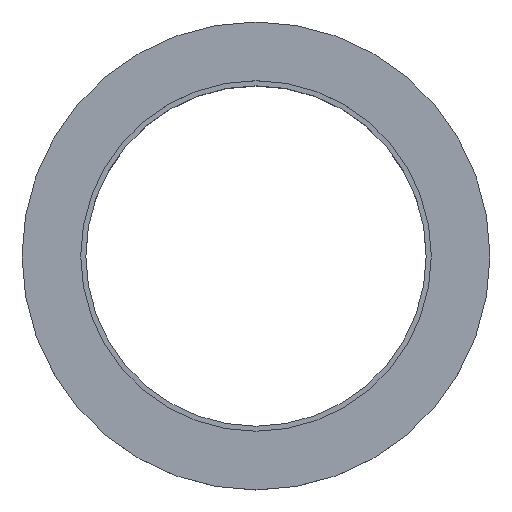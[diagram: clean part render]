
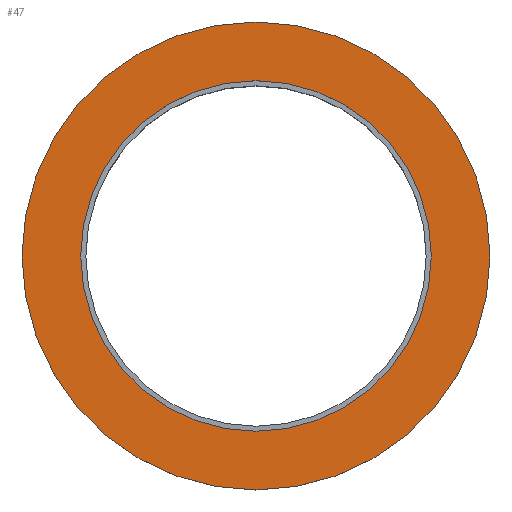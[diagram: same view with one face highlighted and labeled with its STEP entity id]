
A CAD part, top view. The second image highlights one B-rep face of the part: STEP entity #47.
In plain terms, the highlighted planar face has unit normal (0, 0, 1).
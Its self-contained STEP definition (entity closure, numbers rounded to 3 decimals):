
#3 = VERTEX_POINT ( 'NONE', #124 ) ;
#4 = AXIS2_PLACEMENT_3D ( 'NONE', #191, #238, #275 ) ;
#12 = CARTESIAN_POINT ( 'NONE',  ( 0., 0., 0. ) ) ;
#16 = EDGE_CURVE ( 'NONE', #34, #261, #440, .T. ) ;
#30 = CIRCLE ( 'NONE', #157, 27.5 ) ;
#34 = VERTEX_POINT ( 'NONE', #318 ) ;
#35 = DIRECTION ( 'NONE',  ( 0., 0., 1. ) ) ;
#47 = ADVANCED_FACE ( 'NONE', ( #389, #181 ), #473, .T. ) ;
#53 = ORIENTED_EDGE ( 'NONE', *, *, #244, .F. ) ;
#85 = DIRECTION ( 'NONE',  ( 0., 0., 1. ) ) ;
#98 = EDGE_LOOP ( 'NONE', ( #53, #340 ) ) ;
#102 = DIRECTION ( 'NONE',  ( 1., 0., 0. ) ) ;
#112 = CIRCLE ( 'NONE', #361, 20.6 ) ;
#124 = CARTESIAN_POINT ( 'NONE',  ( -20.6, 0., 0. ) ) ;
#130 = DIRECTION ( 'NONE',  ( 0., 0., 1. ) ) ;
#145 = DIRECTION ( 'NONE',  ( 1., 0., 0. ) ) ;
#155 = CARTESIAN_POINT ( 'NONE',  ( 0., 0., 0. ) ) ;
#157 = AXIS2_PLACEMENT_3D ( 'NONE', #155, #85, #226 ) ;
#170 = CARTESIAN_POINT ( 'NONE',  ( 0., 0., 0. ) ) ;
#181 = FACE_BOUND ( 'NONE', #98, .T. ) ;
#191 = CARTESIAN_POINT ( 'NONE',  ( 0., 27.5, 0. ) ) ;
#226 = DIRECTION ( 'NONE',  ( 1., 0., 0. ) ) ;
#238 = DIRECTION ( 'NONE',  ( 0., 0., 1. ) ) ;
#244 = EDGE_CURVE ( 'NONE', #309, #3, #112, .T. ) ;
#254 = ORIENTED_EDGE ( 'NONE', *, *, #16, .T. ) ;
#255 = EDGE_LOOP ( 'NONE', ( #254, #317 ) ) ;
#261 = VERTEX_POINT ( 'NONE', #375 ) ;
#275 = DIRECTION ( 'NONE',  ( 1., 0., 0. ) ) ;
#303 = AXIS2_PLACEMENT_3D ( 'NONE', #170, #130, #102 ) ;
#309 = VERTEX_POINT ( 'NONE', #461 ) ;
#316 = CIRCLE ( 'NONE', #303, 20.6 ) ;
#317 = ORIENTED_EDGE ( 'NONE', *, *, #329, .T. ) ;
#318 = CARTESIAN_POINT ( 'NONE',  ( 27.5, 0., 0. ) ) ;
#329 = EDGE_CURVE ( 'NONE', #261, #34, #30, .T. ) ;
#340 = ORIENTED_EDGE ( 'NONE', *, *, #383, .F. ) ;
#361 = AXIS2_PLACEMENT_3D ( 'NONE', #497, #35, #145 ) ;
#375 = CARTESIAN_POINT ( 'NONE',  ( -27.5, 0., 0. ) ) ;
#383 = EDGE_CURVE ( 'NONE', #3, #309, #316, .T. ) ;
#389 = FACE_OUTER_BOUND ( 'NONE', #255, .T. ) ;
#430 = DIRECTION ( 'NONE',  ( 0., 0., 1. ) ) ;
#432 = DIRECTION ( 'NONE',  ( 1., 0., 0. ) ) ;
#440 = CIRCLE ( 'NONE', #472, 27.5 ) ;
#461 = CARTESIAN_POINT ( 'NONE',  ( 20.6, 0., 0. ) ) ;
#472 = AXIS2_PLACEMENT_3D ( 'NONE', #12, #430, #432 ) ;
#473 = PLANE ( 'NONE',  #4 ) ;
#497 = CARTESIAN_POINT ( 'NONE',  ( 0., 0., 0. ) ) ;
